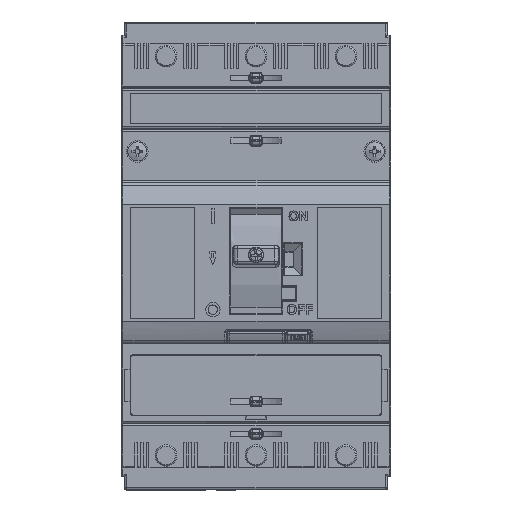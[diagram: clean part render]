
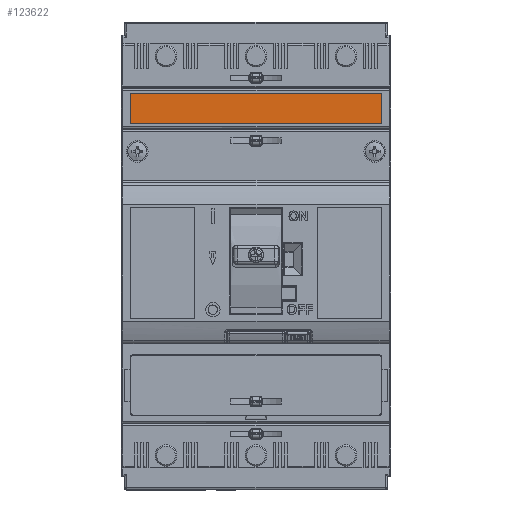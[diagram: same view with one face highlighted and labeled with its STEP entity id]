
A CAD part, top view. The second image highlights one B-rep face of the part: STEP entity #123622.
In plain terms, the highlighted planar face has unit normal (0, 0, 1).
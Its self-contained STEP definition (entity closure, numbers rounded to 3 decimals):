
#12798 = ORIENTED_EDGE ( 'NONE', *, *, #120456, .T. ) ;
#12800 = ORIENTED_EDGE ( 'NONE', *, *, #120459, .T. ) ;
#12803 = ORIENTED_EDGE ( 'NONE', *, *, #120461, .T. ) ;
#12806 = ORIENTED_EDGE ( 'NONE', *, *, #120464, .T. ) ;
#12809 = ORIENTED_EDGE ( 'NONE', *, *, #120467, .T. ) ;
#12812 = ORIENTED_EDGE ( 'NONE', *, *, #120469, .T. ) ;
#12815 = ORIENTED_EDGE ( 'NONE', *, *, #120472, .T. ) ;
#12817 = ORIENTED_EDGE ( 'NONE', *, *, #120474, .T. ) ;
#17646 = EDGE_LOOP ( 'NONE', ( #12798, #12800, #12803, #12806, #12809, #12812, #12815, #12817 ) ) ;
#26077 = FACE_OUTER_BOUND ( 'NONE', #17646, .T. ) ;
#26086 = PLANE ( 'NONE',  #171342 ) ;
#26154 = CARTESIAN_POINT ( 'NONE',  ( -56.905, 41.082, 37.751 ) ) ;
#26158 = DIRECTION ( 'NONE',  ( 0., 0., -1. ) ) ;
#26163 = DIRECTION ( 'NONE',  ( -1., 0., 0. ) ) ;
#31565 = VERTEX_POINT ( 'NONE', #52465 ) ;
#32909 = VERTEX_POINT ( 'NONE', #53095 ) ;
#33134 = VERTEX_POINT ( 'NONE', #53260 ) ;
#33232 = VERTEX_POINT ( 'NONE', #53347 ) ;
#33455 = VERTEX_POINT ( 'NONE', #53561 ) ;
#33889 = VERTEX_POINT ( 'NONE', #54180 ) ;
#34530 = VERTEX_POINT ( 'NONE', #78764 ) ;
#35262 = VERTEX_POINT ( 'NONE', #79572 ) ;
#52465 = CARTESIAN_POINT ( 'NONE',  ( 12.795, 41.082, 37.751 ) ) ;
#53095 = CARTESIAN_POINT ( 'NONE',  ( 12.495, 32.882, 37.751 ) ) ;
#53260 = CARTESIAN_POINT ( 'NONE',  ( -57.205, 33.182, 37.751 ) ) ;
#53347 = CARTESIAN_POINT ( 'NONE',  ( -56.905, 41.382, 37.751 ) ) ;
#53561 = CARTESIAN_POINT ( 'NONE',  ( -57.205, 41.082, 37.751 ) ) ;
#54180 = CARTESIAN_POINT ( 'NONE',  ( -56.905, 32.882, 37.751 ) ) ;
#78764 = CARTESIAN_POINT ( 'NONE',  ( 12.795, 33.182, 37.751 ) ) ;
#79572 = CARTESIAN_POINT ( 'NONE',  ( 12.495, 41.382, 37.751 ) ) ;
#88870 = VECTOR ( 'NONE', #138036, 1000. ) ;
#88872 = CIRCLE ( 'NONE', #88880, 0.3 ) ;
#88877 = VECTOR ( 'NONE', #138042, 1000. ) ;
#88880 = AXIS2_PLACEMENT_3D ( 'NONE', #138039, #138040, #138041 ) ;
#88881 = CIRCLE ( 'NONE', #88883, 0.3 ) ;
#88882 = VECTOR ( 'NONE', #138048, 1000. ) ;
#88883 = AXIS2_PLACEMENT_3D ( 'NONE', #138045, #138046, #138047 ) ;
#88885 = CIRCLE ( 'NONE', #88890, 0.3 ) ;
#88887 = VECTOR ( 'NONE', #138052, 1000. ) ;
#88890 = AXIS2_PLACEMENT_3D ( 'NONE', #138049, #138050, #138051 ) ;
#88891 = CIRCLE ( 'NONE', #88894, 0.3 ) ;
#88894 = AXIS2_PLACEMENT_3D ( 'NONE', #138053, #138054, #138055 ) ;
#120456 = EDGE_CURVE ( 'NONE', #33889, #32909, #138019, .T. ) ;
#120459 = EDGE_CURVE ( 'NONE', #32909, #34530, #88872, .T. ) ;
#120461 = EDGE_CURVE ( 'NONE', #34530, #31565, #138035, .T. ) ;
#120464 = EDGE_CURVE ( 'NONE', #31565, #35262, #88881, .T. ) ;
#120467 = EDGE_CURVE ( 'NONE', #35262, #33232, #138037, .T. ) ;
#120469 = EDGE_CURVE ( 'NONE', #33232, #33455, #88885, .T. ) ;
#120472 = EDGE_CURVE ( 'NONE', #33455, #33134, #138043, .T. ) ;
#120474 = EDGE_CURVE ( 'NONE', #33134, #33889, #88891, .T. ) ;
#123622 = ADVANCED_FACE ( 'NONE', ( #26077 ), #26086, .F. ) ;
#138019 = LINE ( 'NONE', #138034, #88870 ) ;
#138032 = CARTESIAN_POINT ( 'NONE',  ( 12.795, 41.082, 37.751 ) ) ;
#138034 = CARTESIAN_POINT ( 'NONE',  ( -56.905, 32.882, 37.751 ) ) ;
#138035 = LINE ( 'NONE', #138032, #88877 ) ;
#138036 = DIRECTION ( 'NONE',  ( 1., 0., 0. ) ) ;
#138037 = LINE ( 'NONE', #138038, #88882 ) ;
#138038 = CARTESIAN_POINT ( 'NONE',  ( -56.905, 41.382, 37.751 ) ) ;
#138039 = CARTESIAN_POINT ( 'NONE',  ( 12.495, 33.182, 37.751 ) ) ;
#138040 = DIRECTION ( 'NONE',  ( 0., 0., 1. ) ) ;
#138041 = DIRECTION ( 'NONE',  ( 1., 0., 0. ) ) ;
#138042 = DIRECTION ( 'NONE',  ( 0., 1., 0. ) ) ;
#138043 = LINE ( 'NONE', #138044, #88887 ) ;
#138044 = CARTESIAN_POINT ( 'NONE',  ( -57.205, 41.082, 37.751 ) ) ;
#138045 = CARTESIAN_POINT ( 'NONE',  ( 12.495, 41.082, 37.751 ) ) ;
#138046 = DIRECTION ( 'NONE',  ( 0., 0., 1. ) ) ;
#138047 = DIRECTION ( 'NONE',  ( 1., 0., 0. ) ) ;
#138048 = DIRECTION ( 'NONE',  ( -1., 0., 0. ) ) ;
#138049 = CARTESIAN_POINT ( 'NONE',  ( -56.905, 41.082, 37.751 ) ) ;
#138050 = DIRECTION ( 'NONE',  ( 0., 0., 1. ) ) ;
#138051 = DIRECTION ( 'NONE',  ( 1., 0., 0. ) ) ;
#138052 = DIRECTION ( 'NONE',  ( 0., -1., 0. ) ) ;
#138053 = CARTESIAN_POINT ( 'NONE',  ( -56.905, 33.182, 37.751 ) ) ;
#138054 = DIRECTION ( 'NONE',  ( 0., 0., 1. ) ) ;
#138055 = DIRECTION ( 'NONE',  ( 1., 0., 0. ) ) ;
#171342 = AXIS2_PLACEMENT_3D ( 'NONE', #26154, #26158, #26163 ) ;
